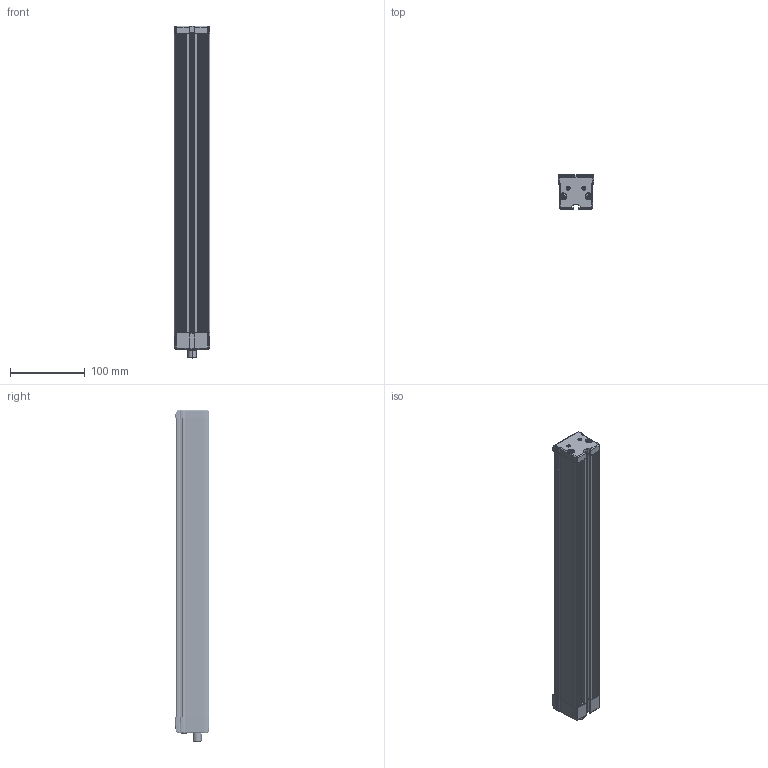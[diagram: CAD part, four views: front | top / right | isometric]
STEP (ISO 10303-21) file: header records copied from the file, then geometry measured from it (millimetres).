
FILE_DESCRIPTION (( 'STEP AP214' ), '1' );
FILE_NAME ('EBAR-C-400.STEP', '2017-11-07T12:03:13', ( '' ), ( '' ), 'SwSTEP 2.0', 'SolidWorks 2014', '' );
FILE_SCHEMA (( 'AUTOMOTIVE_DESIGN' ));
Length unit declared in the file: millimetre
Products named in the file (162): D4; 1437892_EMBASE_MALE; R7; D3; C1; C10; J1; Pin_1_6; Open CASCADE STEP translator 6.8 1.46.1; 011843_ASM; R6; Open CASCADE STEP translator 6.8 1.56.1; Open CASCADE STEP translator 6.8 1.5.1; R25; Open CASCADE STEP translator 6.8 1.64.1; Body_1_7; Pin_2_9; 039879 - EBAR Curve Lexan; VE80510; R5; Pin_2_11; Pin_2; D9; Body_1; L1; Pin_1_10; 394514X20; A14054006; Open CASCADE STEP translator 6.8 1.16.1; Pin_1_12; Pin_1_2; C16; 1432350; Open CASCADE STEP translator 6.8 1.10.1; Body_1_13; A14054060_ASM; A14054517; Pin_2_7; Body_1_15; Body_1_3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
Assembly tree (213 placements, depth 7):
  EBAR-C-400
    A14054001
    A14054002
    A14054005
    A14054517
    011843_ASM
      A14054006
      VE80510  x2
    A14054060_ASM
      A14054040_ASM
        1437892_EMBASE_MALE
        A14054027 after modification
      A14054516
      A14054517
      Button Cover for Curve Function
      039875_A Curve_connection_circuit
        Layer_1
        P1
          Open CASCADE STEP translator 6.8 1.2.1
            Body_1
        P2
          Open CASCADE STEP translator 6.8 1.3.1
            Body_1
        U2
          Open CASCADE STEP translator 6.8 1.4.1
            Body_1_2
            Pin_1
        C1
          Open CASCADE STEP translator 6.8 1.5.1
            Body_1_3
            Pin_1_2
            Pin_2
        C3
          Open CASCADE STEP translator 6.8 1.5.1
            Body_1_3
            Pin_1_2
            Pin_2
        C4
          Open CASCADE STEP translator 6.8 1.7.1
            Body_1_4
            Pin_1_3
            Pin_2_2
        C5
          Open CASCADE STEP translator 6.8 1.8.1
            Body_1_5
            Pin_1_4
            Pin_2_3
        C6
          Open CASCADE STEP translator 6.8 1.5.1
            Body_1_3
            Pin_1_2
            Pin_2
        L1
          Open CASCADE STEP translator 6.8 1.10.1
            Body_1_6
            Pin_1_5
            Pin_2_4
        L2
          Open CASCADE STEP translator 6.8 1.11.1
            Body_1_7
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Bounding box: 47.63 x 45 x 445.05 mm (x, y, z)
Volume: 339450.6 mm3; surface area: 317309.8 mm2
Topology: 211 solids, 215 shells, 8827 faces, 22387 edges, 13976 vertices
Faces by surface type: plane 3764, cylinder 2377, bspline 2296, cone 326, torus 64
Entity records: 276167 total; most frequent: CARTESIAN_POINT 118635, ORIENTED_EDGE 29980, DIRECTION 23289, EDGE_CURVE 14990, VERTEX_POINT 9330, AXIS2_PLACEMENT_3D 8186, LINE 6917, VECTOR 6917
